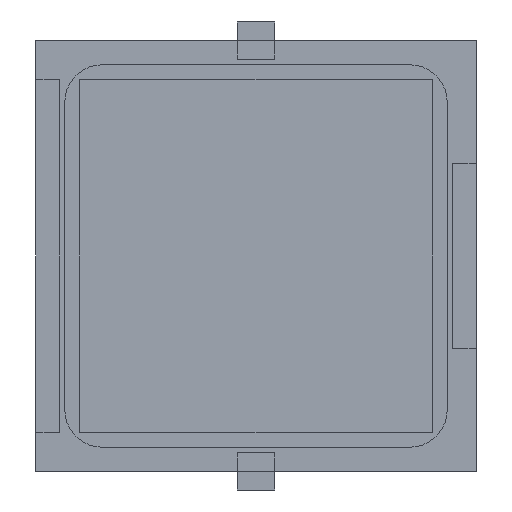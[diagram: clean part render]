
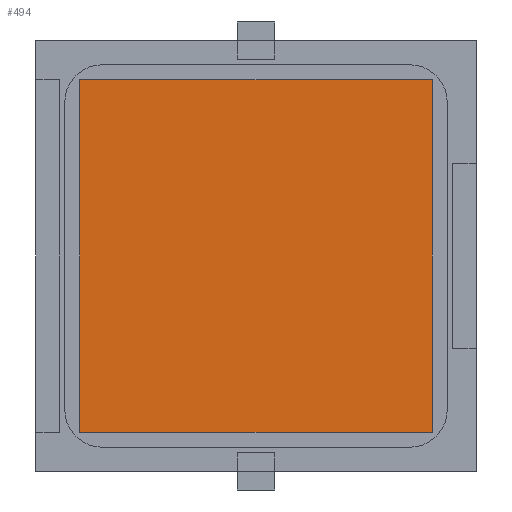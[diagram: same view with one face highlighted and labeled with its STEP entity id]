
A CAD part, front view. The second image highlights one B-rep face of the part: STEP entity #494.
In plain terms, the highlighted planar face has unit normal (0, -1, 0).
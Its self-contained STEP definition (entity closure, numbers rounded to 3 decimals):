
#312 = DIRECTION ( 'NONE',  ( 0., 0., -1. ) ) ;
#395 = PLANE ( 'NONE',  #2530 ) ;
#494 = ADVANCED_FACE ( 'NONE', ( #4342 ), #395, .T. ) ;
#573 = EDGE_CURVE ( 'NONE', #5144, #1898, #4981, .T. ) ;
#711 = EDGE_LOOP ( 'NONE', ( #3026, #3275, #3523, #2173 ) ) ;
#767 = VERTEX_POINT ( 'NONE', #5002 ) ;
#788 = CARTESIAN_POINT ( 'NONE',  ( 9.5, -0.13, 9.5 ) ) ;
#817 = DIRECTION ( 'NONE',  ( 0., -1., 0. ) ) ;
#1077 = VECTOR ( 'NONE', #5038, 1000. ) ;
#1282 = DIRECTION ( 'NONE',  ( -1., 0., 0. ) ) ;
#1623 = VECTOR ( 'NONE', #1282, 1000. ) ;
#1898 = VERTEX_POINT ( 'NONE', #5043 ) ;
#2173 = ORIENTED_EDGE ( 'NONE', *, *, #573, .T. ) ;
#2530 = AXIS2_PLACEMENT_3D ( 'NONE', #788, #817, #5192 ) ;
#3026 = ORIENTED_EDGE ( 'NONE', *, *, #5001, .T. ) ;
#3059 = LINE ( 'NONE', #3539, #5316 ) ;
#3275 = ORIENTED_EDGE ( 'NONE', *, *, #4766, .T. ) ;
#3503 = LINE ( 'NONE', #4372, #1623 ) ;
#3523 = ORIENTED_EDGE ( 'NONE', *, *, #4163, .T. ) ;
#3539 = CARTESIAN_POINT ( 'NONE',  ( 9.5, -0.13, -9.5 ) ) ;
#4118 = VERTEX_POINT ( 'NONE', #5039 ) ;
#4162 = LINE ( 'NONE', #5558, #5577 ) ;
#4163 = EDGE_CURVE ( 'NONE', #767, #5144, #4162, .T. ) ;
#4197 = CARTESIAN_POINT ( 'NONE',  ( -9.5, -0.13, -9.5 ) ) ;
#4342 = FACE_OUTER_BOUND ( 'NONE', #711, .T. ) ;
#4372 = CARTESIAN_POINT ( 'NONE',  ( 9.5, -0.13, 9.5 ) ) ;
#4437 = DIRECTION ( 'NONE',  ( 0., 0., 1. ) ) ;
#4766 = EDGE_CURVE ( 'NONE', #4118, #767, #3503, .T. ) ;
#4981 = LINE ( 'NONE', #5493, #1077 ) ;
#5001 = EDGE_CURVE ( 'NONE', #1898, #4118, #3059, .T. ) ;
#5002 = CARTESIAN_POINT ( 'NONE',  ( -9.5, -0.13, 9.5 ) ) ;
#5038 = DIRECTION ( 'NONE',  ( 1., 0., 0. ) ) ;
#5039 = CARTESIAN_POINT ( 'NONE',  ( 9.5, -0.13, 9.5 ) ) ;
#5043 = CARTESIAN_POINT ( 'NONE',  ( 9.5, -0.13, -9.5 ) ) ;
#5144 = VERTEX_POINT ( 'NONE', #4197 ) ;
#5192 = DIRECTION ( 'NONE',  ( 0., 0., 1. ) ) ;
#5316 = VECTOR ( 'NONE', #4437, 1000. ) ;
#5493 = CARTESIAN_POINT ( 'NONE',  ( 9.5, -0.13, -9.5 ) ) ;
#5558 = CARTESIAN_POINT ( 'NONE',  ( -9.5, -0.13, -9.5 ) ) ;
#5577 = VECTOR ( 'NONE', #312, 1000. ) ;
